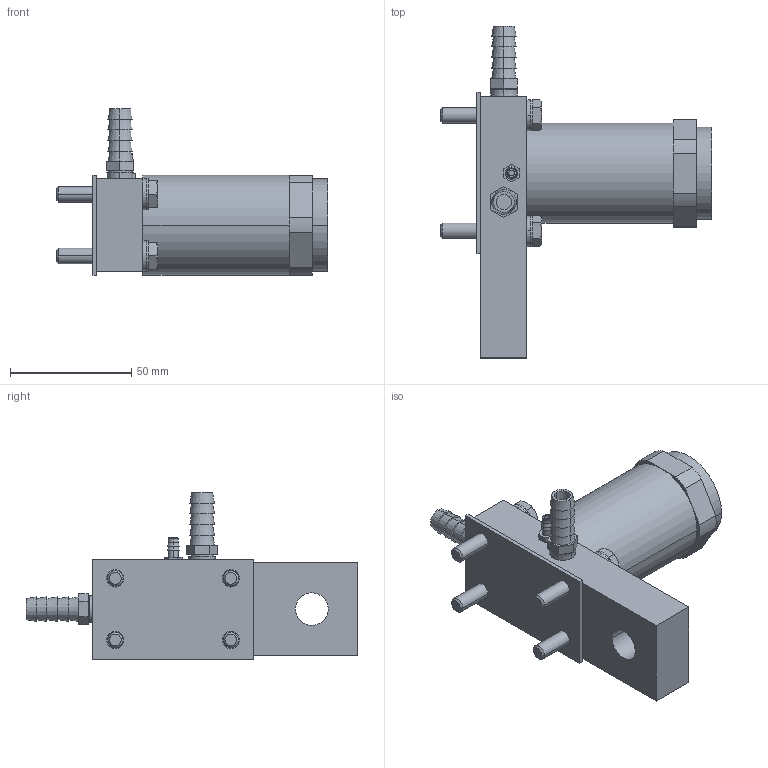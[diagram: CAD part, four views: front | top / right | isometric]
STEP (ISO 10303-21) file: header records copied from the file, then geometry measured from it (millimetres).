
FILE_DESCRIPTION((''),'2;1');
FILE_NAME('XH4_ASM','2017-08-24T',('jennifer.elliott'),('CenterLine (Windsor) Ltd - Automation Components Division'),'PRO/ENGINEER BY PARAMETRIC TECHNOLOGY CORPORATION, 2015030','PRO/ENGINEER BY PARAMETRIC TECHNOLOGY CORPORATION, 2015030','');
FILE_SCHEMA(('AUTOMOTIVE_DESIGN { 1 0 10303 214 1 1 1 1 }'));
Length unit declared in the file: inch
Products named in the file (21): PRT1181; PRT1182; PRT1183; PRT1184; PRT1185; PRT1186; PRT1187; PRT1188; PRT1189; PRT1190; PRT1191; PRT1192; PRT1193; PRT1194; PRT1195; PRT1196; PRT1197; PRT1198; PRT1199; PRT1200; XH4_ASM
Assembly tree (20 placements, depth 2):
  XH4_ASM
    PRT1181
    PRT1182
    PRT1183
    PRT1184
    PRT1185
    PRT1186
    PRT1187
    PRT1188
    PRT1189
    PRT1190
    PRT1191
    PRT1192
    PRT1193
    PRT1194
    PRT1195
    PRT1196
    PRT1197
    PRT1198
    PRT1199
    PRT1200
Bounding box: 111.95 x 136.91 x 68.64 mm (x, y, z)
Volume: 187718.5 mm3; surface area: 51890 mm2
Topology: 20 solids, 20 shells, 275 faces, 608 edges, 398 vertices
Faces by surface type: plane 121, cylinder 90, cone 60, torus 4
Entity records: 9261 total; most frequent: CARTESIAN_POINT 1635, DIRECTION 1482, ORIENTED_EDGE 1216, EDGE_CURVE 608, AXIS2_PLACEMENT_3D 606, VERTEX_POINT 398, EDGE_LOOP 340, CIRCLE 290
